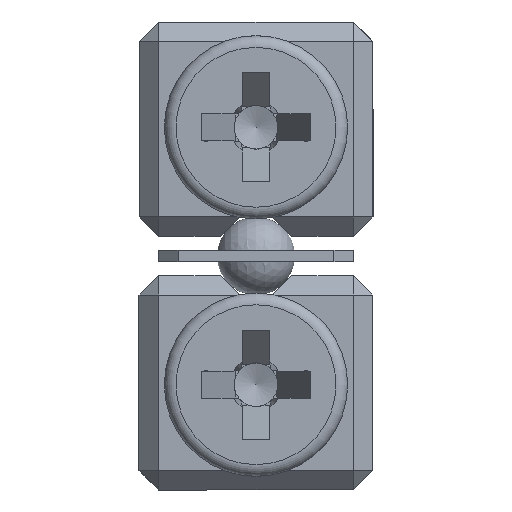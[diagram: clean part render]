
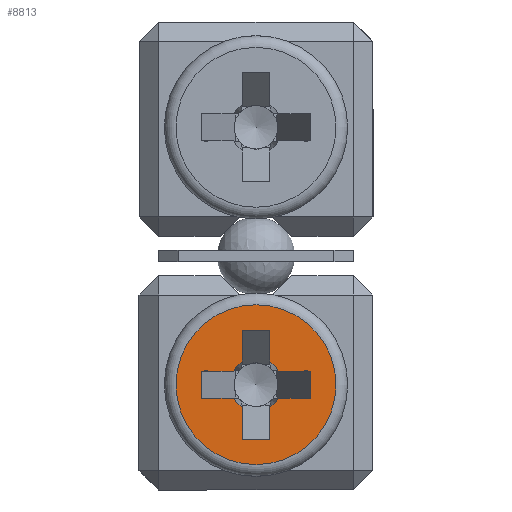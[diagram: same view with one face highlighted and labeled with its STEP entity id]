
A CAD part, left-side view. The second image highlights one B-rep face of the part: STEP entity #8813.
In plain terms, the highlighted planar face has unit normal (-1, 0, 0).
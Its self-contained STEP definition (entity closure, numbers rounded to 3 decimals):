
#115 = FACE_BOUND ( 'NONE', #10183, .T. ) ;
#168 = CARTESIAN_POINT ( 'NONE',  ( -39., -0.35, 3.281 ) ) ;
#179 = VERTEX_POINT ( 'NONE', #6306 ) ;
#361 = VECTOR ( 'NONE', #12275, 1000. ) ;
#523 = VERTEX_POINT ( 'NONE', #7921 ) ;
#534 = EDGE_CURVE ( 'NONE', #12590, #698, #1851, .T. ) ;
#648 = CARTESIAN_POINT ( 'NONE',  ( -39., 0.581, 3.05 ) ) ;
#698 = VERTEX_POINT ( 'NONE', #168 ) ;
#764 = VERTEX_POINT ( 'NONE', #4806 ) ;
#938 = DIRECTION ( 'NONE',  ( 0., -1., 0. ) ) ;
#943 = EDGE_CURVE ( 'NONE', #179, #179, #5862, .T. ) ;
#995 = DIRECTION ( 'NONE',  ( 1., 0., 0. ) ) ;
#1028 = VECTOR ( 'NONE', #11016, 1000. ) ;
#1063 = PLANE ( 'NONE',  #4085 ) ;
#1238 = CARTESIAN_POINT ( 'NONE',  ( -39., -0.581, 2.35 ) ) ;
#1324 = DIRECTION ( 'NONE',  ( -1., 0., 0. ) ) ;
#1533 = ORIENTED_EDGE ( 'NONE', *, *, #8218, .T. ) ;
#1598 = ORIENTED_EDGE ( 'NONE', *, *, #4375, .T. ) ;
#1615 = ORIENTED_EDGE ( 'NONE', *, *, #12149, .F. ) ;
#1656 = CARTESIAN_POINT ( 'NONE',  ( -39., -0.35, 1.3 ) ) ;
#1851 = CIRCLE ( 'NONE', #3568, 0.678 ) ;
#1874 = FACE_OUTER_BOUND ( 'NONE', #7764, .T. ) ;
#1909 = VERTEX_POINT ( 'NONE', #12074 ) ;
#2074 = LINE ( 'NONE', #7196, #5337 ) ;
#2273 = CARTESIAN_POINT ( 'NONE',  ( -39., 0., 2.7 ) ) ;
#2287 = EDGE_CURVE ( 'NONE', #9509, #4514, #10876, .T. ) ;
#2647 = ORIENTED_EDGE ( 'NONE', *, *, #7698, .F. ) ;
#2866 = CARTESIAN_POINT ( 'NONE',  ( -39., -1.4, 2.35 ) ) ;
#2878 = CARTESIAN_POINT ( 'NONE',  ( -39., -1.4, 2.35 ) ) ;
#3086 = DIRECTION ( 'NONE',  ( 0., 0., -1. ) ) ;
#3119 = VERTEX_POINT ( 'NONE', #7410 ) ;
#3221 = EDGE_CURVE ( 'NONE', #9644, #523, #3371, .T. ) ;
#3223 = ORIENTED_EDGE ( 'NONE', *, *, #534, .F. ) ;
#3257 = CARTESIAN_POINT ( 'NONE',  ( -39., -1.4, 2.35 ) ) ;
#3350 = CARTESIAN_POINT ( 'NONE',  ( -39., 0.35, 3.281 ) ) ;
#3371 = LINE ( 'NONE', #9625, #6923 ) ;
#3568 = AXIS2_PLACEMENT_3D ( 'NONE', #12150, #10064, #5217 ) ;
#3575 = EDGE_CURVE ( 'NONE', #11244, #3119, #6456, .T. ) ;
#3629 = CIRCLE ( 'NONE', #5352, 0.678 ) ;
#3920 = DIRECTION ( 'NONE',  ( 0., -1., 0. ) ) ;
#3943 = CARTESIAN_POINT ( 'NONE',  ( -39., -0.35, 2.119 ) ) ;
#3981 = ORIENTED_EDGE ( 'NONE', *, *, #11161, .T. ) ;
#4036 = ORIENTED_EDGE ( 'NONE', *, *, #12270, .F. ) ;
#4085 = AXIS2_PLACEMENT_3D ( 'NONE', #6121, #995, #3086 ) ;
#4171 = CARTESIAN_POINT ( 'NONE',  ( -39., 0., 2.7 ) ) ;
#4266 = LINE ( 'NONE', #8427, #8133 ) ;
#4336 = CARTESIAN_POINT ( 'NONE',  ( -39., 1.4, 3.05 ) ) ;
#4375 = EDGE_CURVE ( 'NONE', #12606, #13221, #4266, .T. ) ;
#4458 = VECTOR ( 'NONE', #12964, 1000. ) ;
#4514 = VERTEX_POINT ( 'NONE', #13130 ) ;
#4530 = EDGE_CURVE ( 'NONE', #764, #8132, #2074, .T. ) ;
#4608 = CARTESIAN_POINT ( 'NONE',  ( -39., 0., 2.7 ) ) ;
#4806 = CARTESIAN_POINT ( 'NONE',  ( -39., 1.4, 3.05 ) ) ;
#4878 = CIRCLE ( 'NONE', #5740, 0.678 ) ;
#5130 = VECTOR ( 'NONE', #7120, 1000. ) ;
#5217 = DIRECTION ( 'NONE',  ( 0., 0., 1. ) ) ;
#5267 = ORIENTED_EDGE ( 'NONE', *, *, #11429, .F. ) ;
#5337 = VECTOR ( 'NONE', #938, 1000. ) ;
#5352 = AXIS2_PLACEMENT_3D ( 'NONE', #9139, #11958, #5777 ) ;
#5524 = EDGE_CURVE ( 'NONE', #7157, #4514, #3629, .T. ) ;
#5640 = VERTEX_POINT ( 'NONE', #1238 ) ;
#5740 = AXIS2_PLACEMENT_3D ( 'NONE', #2273, #1324, #8406 ) ;
#5777 = DIRECTION ( 'NONE',  ( 0., 0., 1. ) ) ;
#5862 = CIRCLE ( 'NONE', #9310, 2.05 ) ;
#5866 = LINE ( 'NONE', #9962, #7712 ) ;
#5986 = LINE ( 'NONE', #9142, #5130 ) ;
#6087 = DIRECTION ( 'NONE',  ( -1., 0., 0. ) ) ;
#6121 = CARTESIAN_POINT ( 'NONE',  ( -39., 2.35, 2.7 ) ) ;
#6306 = CARTESIAN_POINT ( 'NONE',  ( -39., 0., 0.65 ) ) ;
#6402 = CARTESIAN_POINT ( 'NONE',  ( -39., -0.581, 3.05 ) ) ;
#6412 = AXIS2_PLACEMENT_3D ( 'NONE', #4171, #12365, #11354 ) ;
#6417 = LINE ( 'NONE', #4336, #361 ) ;
#6456 = LINE ( 'NONE', #12709, #12945 ) ;
#6585 = EDGE_CURVE ( 'NONE', #7157, #8297, #11959, .T. ) ;
#6635 = CIRCLE ( 'NONE', #6412, 0.678 ) ;
#6702 = LINE ( 'NONE', #7717, #4458 ) ;
#6851 = VECTOR ( 'NONE', #11882, 1000. ) ;
#6923 = VECTOR ( 'NONE', #10693, 1000. ) ;
#7120 = DIRECTION ( 'NONE',  ( 0., -1., 0. ) ) ;
#7157 = VERTEX_POINT ( 'NONE', #7302 ) ;
#7196 = CARTESIAN_POINT ( 'NONE',  ( -39., 1.4, 3.05 ) ) ;
#7302 = CARTESIAN_POINT ( 'NONE',  ( -39., 0.581, 2.35 ) ) ;
#7323 = CARTESIAN_POINT ( 'NONE',  ( -39., -0.35, 4.1 ) ) ;
#7410 = CARTESIAN_POINT ( 'NONE',  ( -39., 0.35, 4.1 ) ) ;
#7519 = EDGE_CURVE ( 'NONE', #9509, #13221, #5986, .T. ) ;
#7549 = ORIENTED_EDGE ( 'NONE', *, *, #5524, .F. ) ;
#7698 = EDGE_CURVE ( 'NONE', #12606, #5640, #6635, .T. ) ;
#7712 = VECTOR ( 'NONE', #3920, 1000. ) ;
#7717 = CARTESIAN_POINT ( 'NONE',  ( -39., -0.35, 4.1 ) ) ;
#7764 = EDGE_LOOP ( 'NONE', ( #11137 ) ) ;
#7921 = CARTESIAN_POINT ( 'NONE',  ( -39., -1.4, 3.05 ) ) ;
#8132 = VERTEX_POINT ( 'NONE', #648 ) ;
#8133 = VECTOR ( 'NONE', #10505, 1000. ) ;
#8218 = EDGE_CURVE ( 'NONE', #9644, #5640, #12085, .T. ) ;
#8297 = VERTEX_POINT ( 'NONE', #11788 ) ;
#8352 = EDGE_CURVE ( 'NONE', #12590, #523, #5866, .T. ) ;
#8370 = ORIENTED_EDGE ( 'NONE', *, *, #7519, .F. ) ;
#8406 = DIRECTION ( 'NONE',  ( 0., 0., 1. ) ) ;
#8427 = CARTESIAN_POINT ( 'NONE',  ( -39., -0.35, 4.1 ) ) ;
#8813 = ADVANCED_FACE ( 'NONE', ( #1874, #115 ), #1063, .F. ) ;
#9139 = CARTESIAN_POINT ( 'NONE',  ( -39., 0., 2.7 ) ) ;
#9142 = CARTESIAN_POINT ( 'NONE',  ( -39., 0.35, 1.3 ) ) ;
#9310 = AXIS2_PLACEMENT_3D ( 'NONE', #4608, #6087, #13090 ) ;
#9509 = VERTEX_POINT ( 'NONE', #11261 ) ;
#9625 = CARTESIAN_POINT ( 'NONE',  ( -39., -1.4, 2.35 ) ) ;
#9644 = VERTEX_POINT ( 'NONE', #3257 ) ;
#9962 = CARTESIAN_POINT ( 'NONE',  ( -39., 1.4, 3.05 ) ) ;
#10064 = DIRECTION ( 'NONE',  ( -1., 0., 0. ) ) ;
#10183 = EDGE_LOOP ( 'NONE', ( #2647, #1598, #8370, #12997, #7549, #12870, #5267, #11042, #1615, #10995, #4036, #3981, #3223, #12925, #10614, #1533 ) ) ;
#10380 = VECTOR ( 'NONE', #11506, 1000. ) ;
#10485 = DIRECTION ( 'NONE',  ( 0., 0., 1. ) ) ;
#10505 = DIRECTION ( 'NONE',  ( 0., 0., -1. ) ) ;
#10614 = ORIENTED_EDGE ( 'NONE', *, *, #3221, .F. ) ;
#10693 = DIRECTION ( 'NONE',  ( 0., 0., 1. ) ) ;
#10856 = DIRECTION ( 'NONE',  ( 0., 0., -1. ) ) ;
#10876 = LINE ( 'NONE', #11822, #10380 ) ;
#10879 = VECTOR ( 'NONE', #10856, 1000. ) ;
#10995 = ORIENTED_EDGE ( 'NONE', *, *, #3575, .T. ) ;
#11016 = DIRECTION ( 'NONE',  ( 0., 1., 0. ) ) ;
#11042 = ORIENTED_EDGE ( 'NONE', *, *, #4530, .T. ) ;
#11137 = ORIENTED_EDGE ( 'NONE', *, *, #943, .T. ) ;
#11161 = EDGE_CURVE ( 'NONE', #1909, #698, #11804, .T. ) ;
#11244 = VERTEX_POINT ( 'NONE', #3350 ) ;
#11261 = CARTESIAN_POINT ( 'NONE',  ( -39., 0.35, 1.3 ) ) ;
#11354 = DIRECTION ( 'NONE',  ( 0., 0., 1. ) ) ;
#11429 = EDGE_CURVE ( 'NONE', #764, #8297, #6417, .T. ) ;
#11506 = DIRECTION ( 'NONE',  ( 0., 0., 1. ) ) ;
#11788 = CARTESIAN_POINT ( 'NONE',  ( -39., 1.4, 2.35 ) ) ;
#11804 = LINE ( 'NONE', #7323, #10879 ) ;
#11822 = CARTESIAN_POINT ( 'NONE',  ( -39., 0.35, 1.3 ) ) ;
#11882 = DIRECTION ( 'NONE',  ( 0., 1., 0. ) ) ;
#11958 = DIRECTION ( 'NONE',  ( -1., 0., 0. ) ) ;
#11959 = LINE ( 'NONE', #2878, #1028 ) ;
#12074 = CARTESIAN_POINT ( 'NONE',  ( -39., -0.35, 4.1 ) ) ;
#12085 = LINE ( 'NONE', #2866, #6851 ) ;
#12149 = EDGE_CURVE ( 'NONE', #11244, #8132, #4878, .T. ) ;
#12150 = CARTESIAN_POINT ( 'NONE',  ( -39., 0., 2.7 ) ) ;
#12270 = EDGE_CURVE ( 'NONE', #1909, #3119, #6702, .T. ) ;
#12275 = DIRECTION ( 'NONE',  ( 0., 0., -1. ) ) ;
#12365 = DIRECTION ( 'NONE',  ( -1., 0., 0. ) ) ;
#12590 = VERTEX_POINT ( 'NONE', #6402 ) ;
#12606 = VERTEX_POINT ( 'NONE', #3943 ) ;
#12709 = CARTESIAN_POINT ( 'NONE',  ( -39., 0.35, 1.3 ) ) ;
#12870 = ORIENTED_EDGE ( 'NONE', *, *, #6585, .T. ) ;
#12925 = ORIENTED_EDGE ( 'NONE', *, *, #8352, .T. ) ;
#12945 = VECTOR ( 'NONE', #10485, 1000. ) ;
#12964 = DIRECTION ( 'NONE',  ( 0., 1., 0. ) ) ;
#12997 = ORIENTED_EDGE ( 'NONE', *, *, #2287, .T. ) ;
#13090 = DIRECTION ( 'NONE',  ( 0., 0., -1. ) ) ;
#13130 = CARTESIAN_POINT ( 'NONE',  ( -39., 0.35, 2.119 ) ) ;
#13221 = VERTEX_POINT ( 'NONE', #1656 ) ;
